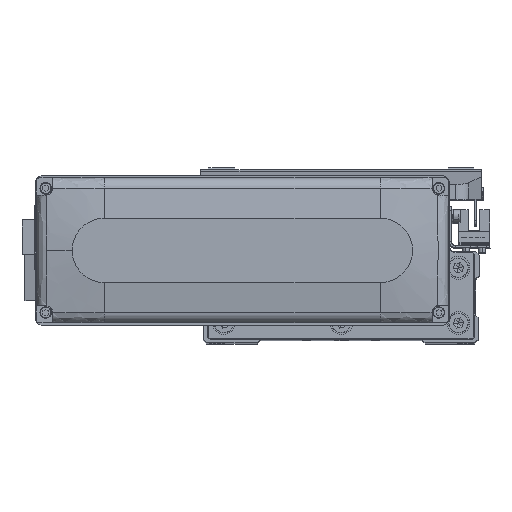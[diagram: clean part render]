
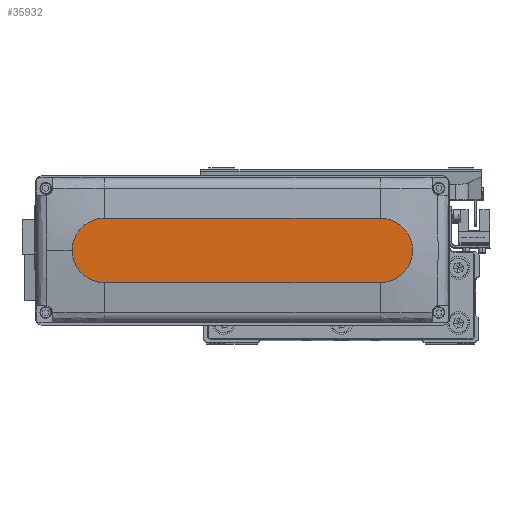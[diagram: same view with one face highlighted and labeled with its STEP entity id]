
A CAD part, top view. The second image highlights one B-rep face of the part: STEP entity #35932.
In plain terms, the highlighted planar face has unit normal (0, 0, 1).
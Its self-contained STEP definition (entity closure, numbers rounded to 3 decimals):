
#1031 = VERTEX_POINT ( 'NONE', #26139 ) ;
#2614 = VERTEX_POINT ( 'NONE', #9417 ) ;
#2793 = AXIS2_PLACEMENT_3D ( 'NONE', #21243, #13381, #39983 ) ;
#3571 = DIRECTION ( 'NONE',  ( 0., 0., 1. ) ) ;
#4452 = ORIENTED_EDGE ( 'NONE', *, *, #39576, .T. ) ;
#4541 = VERTEX_POINT ( 'NONE', #18566 ) ;
#8566 = ORIENTED_EDGE ( 'NONE', *, *, #34637, .T. ) ;
#8708 = CIRCLE ( 'NONE', #25133, 14. ) ;
#9176 = ORIENTED_EDGE ( 'NONE', *, *, #32799, .T. ) ;
#9417 = CARTESIAN_POINT ( 'NONE',  ( -60., -14., 28.5 ) ) ;
#11525 = VERTEX_POINT ( 'NONE', #35468 ) ;
#12146 = LINE ( 'NONE', #22399, #33089 ) ;
#13381 = DIRECTION ( 'NONE',  ( 0., 0., 1. ) ) ;
#13429 = EDGE_CURVE ( 'NONE', #24362, #2614, #31556, .T. ) ;
#14091 = FACE_OUTER_BOUND ( 'NONE', #30887, .T. ) ;
#14295 = CARTESIAN_POINT ( 'NONE',  ( 0., 0., 28.5 ) ) ;
#16722 = VECTOR ( 'NONE', #27072, 1000. ) ;
#18566 = CARTESIAN_POINT ( 'NONE',  ( 60., 14., 28.5 ) ) ;
#20315 = DIRECTION ( 'NONE',  ( 1., 0., 0. ) ) ;
#20627 = LINE ( 'NONE', #40806, #16722 ) ;
#20872 = CIRCLE ( 'NONE', #32474, 14. ) ;
#20949 = ORIENTED_EDGE ( 'NONE', *, *, #13429, .T. ) ;
#21243 = CARTESIAN_POINT ( 'NONE',  ( -60., 0., 28.5 ) ) ;
#22399 = CARTESIAN_POINT ( 'NONE',  ( -60., -14., 28.5 ) ) ;
#24362 = VERTEX_POINT ( 'NONE', #36581 ) ;
#25133 = AXIS2_PLACEMENT_3D ( 'NONE', #29648, #3571, #20315 ) ;
#26139 = CARTESIAN_POINT ( 'NONE',  ( 74., 0., 28.5 ) ) ;
#26606 = ORIENTED_EDGE ( 'NONE', *, *, #33033, .T. ) ;
#26707 = PLANE ( 'NONE',  #28503 ) ;
#27072 = DIRECTION ( 'NONE',  ( -1., 0., 0. ) ) ;
#27567 = DIRECTION ( 'NONE',  ( 0., 0., 1. ) ) ;
#27935 = DIRECTION ( 'NONE',  ( 1., 0., 0. ) ) ;
#28503 = AXIS2_PLACEMENT_3D ( 'NONE', #14295, #27567, #30784 ) ;
#29242 = DIRECTION ( 'NONE',  ( 1., 0., 0. ) ) ;
#29648 = CARTESIAN_POINT ( 'NONE',  ( 60., 0., 28.5 ) ) ;
#30784 = DIRECTION ( 'NONE',  ( 1., 0., 0. ) ) ;
#30887 = EDGE_LOOP ( 'NONE', ( #9176, #20949, #26606, #8566, #4452 ) ) ;
#31556 = CIRCLE ( 'NONE', #2793, 14. ) ;
#32474 = AXIS2_PLACEMENT_3D ( 'NONE', #34378, #40834, #27935 ) ;
#32799 = EDGE_CURVE ( 'NONE', #4541, #24362, #20627, .T. ) ;
#33033 = EDGE_CURVE ( 'NONE', #2614, #11525, #12146, .T. ) ;
#33089 = VECTOR ( 'NONE', #29242, 1000. ) ;
#34378 = CARTESIAN_POINT ( 'NONE',  ( 60., 0., 28.5 ) ) ;
#34637 = EDGE_CURVE ( 'NONE', #11525, #1031, #20872, .T. ) ;
#35468 = CARTESIAN_POINT ( 'NONE',  ( 60., -14., 28.5 ) ) ;
#35932 = ADVANCED_FACE ( 'NONE', ( #14091 ), #26707, .T. ) ;
#36581 = CARTESIAN_POINT ( 'NONE',  ( -60., 14., 28.5 ) ) ;
#39576 = EDGE_CURVE ( 'NONE', #1031, #4541, #8708, .T. ) ;
#39983 = DIRECTION ( 'NONE',  ( 1., 0., 0. ) ) ;
#40806 = CARTESIAN_POINT ( 'NONE',  ( -60., 14., 28.5 ) ) ;
#40834 = DIRECTION ( 'NONE',  ( 0., 0., 1. ) ) ;
